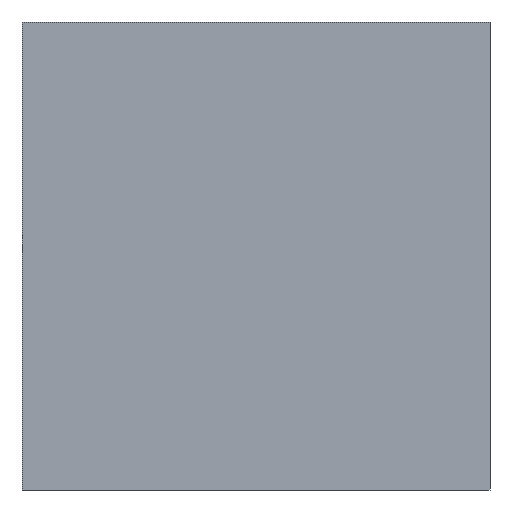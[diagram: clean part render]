
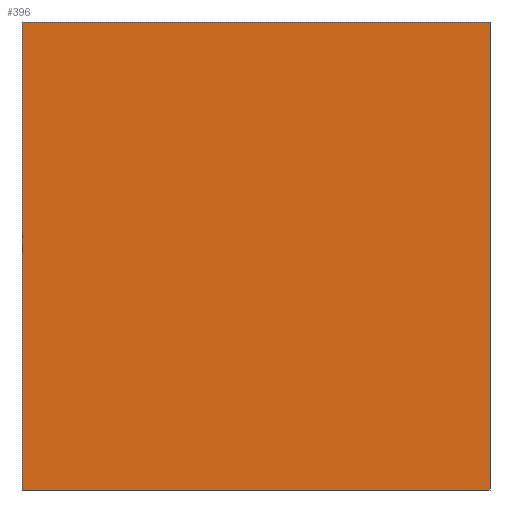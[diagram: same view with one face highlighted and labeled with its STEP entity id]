
A CAD part, front view. The second image highlights one B-rep face of the part: STEP entity #396.
In plain terms, the highlighted planar face has unit normal (0, -1, 0).
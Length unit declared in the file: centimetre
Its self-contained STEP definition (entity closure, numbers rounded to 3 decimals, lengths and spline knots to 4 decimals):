
#1 = EDGE_CURVE ( 'NONE', #520, #160, #203, .T. ) ;
#23 = LINE ( 'NONE', #519, #306 ) ;
#28 = VECTOR ( 'NONE', #392, 100. ) ;
#46 = CARTESIAN_POINT ( 'NONE',  ( 0., 0., 1000. ) ) ;
#52 = EDGE_CURVE ( 'NONE', #358, #520, #292, .T. ) ;
#68 = ORIENTED_EDGE ( 'NONE', *, *, #52, .T. ) ;
#70 = CARTESIAN_POINT ( 'NONE',  ( 1000., 0., 0. ) ) ;
#74 = VECTOR ( 'NONE', #341, 100. ) ;
#76 = EDGE_CURVE ( 'NONE', #277, #160, #23, .T. ) ;
#102 = CARTESIAN_POINT ( 'NONE',  ( 0., 0., 0. ) ) ;
#120 = ORIENTED_EDGE ( 'NONE', *, *, #76, .F. ) ;
#160 = VERTEX_POINT ( 'NONE', #70 ) ;
#167 = EDGE_LOOP ( 'NONE', ( #215, #120, #173, #68 ) ) ;
#173 = ORIENTED_EDGE ( 'NONE', *, *, #274, .F. ) ;
#200 = CARTESIAN_POINT ( 'NONE',  ( 0., 0., 0. ) ) ;
#203 = LINE ( 'NONE', #102, #464 ) ;
#213 = LINE ( 'NONE', #263, #28 ) ;
#215 = ORIENTED_EDGE ( 'NONE', *, *, #1, .T. ) ;
#245 = DIRECTION ( 'NONE',  ( 1., 0., 0. ) ) ;
#260 = CARTESIAN_POINT ( 'NONE',  ( 1000., 0., 1000. ) ) ;
#263 = CARTESIAN_POINT ( 'NONE',  ( 0., 0., 1000. ) ) ;
#272 = PLANE ( 'NONE',  #320 ) ;
#274 = EDGE_CURVE ( 'NONE', #358, #277, #213, .T. ) ;
#277 = VERTEX_POINT ( 'NONE', #260 ) ;
#279 = DIRECTION ( 'NONE',  ( 0., 0., 1. ) ) ;
#292 = LINE ( 'NONE', #380, #74 ) ;
#306 = VECTOR ( 'NONE', #571, 100. ) ;
#318 = CARTESIAN_POINT ( 'NONE',  ( 0., 0., 1000. ) ) ;
#320 = AXIS2_PLACEMENT_3D ( 'NONE', #46, #371, #279 ) ;
#341 = DIRECTION ( 'NONE',  ( 0., 0., -1. ) ) ;
#358 = VERTEX_POINT ( 'NONE', #318 ) ;
#371 = DIRECTION ( 'NONE',  ( 0., 1., 0. ) ) ;
#380 = CARTESIAN_POINT ( 'NONE',  ( 0., 0., 1000. ) ) ;
#392 = DIRECTION ( 'NONE',  ( 1., 0., 0. ) ) ;
#396 = ADVANCED_FACE ( 'NONE', ( #454 ), #272, .F. ) ;
#454 = FACE_OUTER_BOUND ( 'NONE', #167, .T. ) ;
#464 = VECTOR ( 'NONE', #245, 100. ) ;
#519 = CARTESIAN_POINT ( 'NONE',  ( 1000., 0., 1000. ) ) ;
#520 = VERTEX_POINT ( 'NONE', #200 ) ;
#571 = DIRECTION ( 'NONE',  ( 0., 0., -1. ) ) ;
